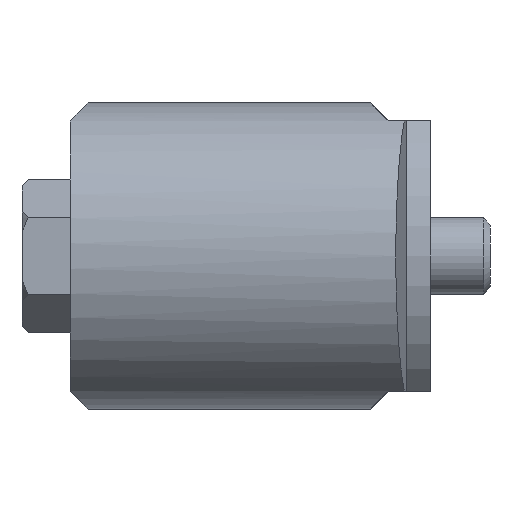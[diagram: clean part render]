
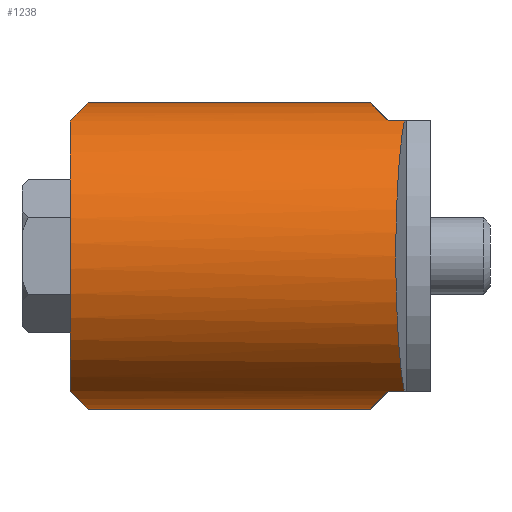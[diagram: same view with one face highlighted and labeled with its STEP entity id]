
A CAD part, left-side view. The second image highlights one B-rep face of the part: STEP entity #1238.
In plain terms, the highlighted cylindrical face has radius 12.75 mm (diameter 25.5 mm), a partial arc.
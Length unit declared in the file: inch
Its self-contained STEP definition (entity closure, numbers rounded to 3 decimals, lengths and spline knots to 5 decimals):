
#40=ELLIPSE('',#1332,0.70989,0.50197);
#41=ELLIPSE('',#1335,0.70989,0.50197);
#42=ELLIPSE('',#1338,0.70989,0.50197);
#43=ELLIPSE('',#1340,0.70989,0.50197);
#44=ELLIPSE('',#1344,0.50473,0.50197);
#112=FACE_OUTER_BOUND('',#183,.T.);
#183=EDGE_LOOP('',(#840,#841,#842,#843,#844,#845,#846,#847,#848,#849));
#261=LINE('',#1909,#332);
#274=LINE('',#1939,#345);
#283=LINE('',#1964,#354);
#284=LINE('',#1966,#355);
#332=VECTOR('',#1517,0.3937);
#345=VECTOR('',#1536,0.3937);
#354=VECTOR('',#1563,0.3937);
#355=VECTOR('',#1566,0.3937);
#407=CIRCLE('',#1346,0.50197);
#492=VERTEX_POINT('',#1899);
#493=VERTEX_POINT('',#1900);
#496=VERTEX_POINT('',#1908);
#501=VERTEX_POINT('',#1920);
#502=VERTEX_POINT('',#1921);
#509=VERTEX_POINT('',#1936);
#510=VERTEX_POINT('',#1938);
#512=VERTEX_POINT('',#1944);
#514=VERTEX_POINT('',#1950);
#515=VERTEX_POINT('',#1951);
#620=EDGE_CURVE('',#492,#493,#40,.T.);
#624=EDGE_CURVE('',#493,#496,#261,.T.);
#630=EDGE_CURVE('',#501,#502,#41,.T.);
#638=EDGE_CURVE('',#510,#509,#274,.T.);
#641=EDGE_CURVE('',#509,#512,#42,.T.);
#644=EDGE_CURVE('',#514,#515,#43,.T.);
#650=EDGE_CURVE('',#496,#510,#44,.T.);
#651=EDGE_CURVE('',#512,#514,#283,.T.);
#652=EDGE_CURVE('',#501,#515,#407,.T.);
#653=EDGE_CURVE('',#492,#502,#284,.T.);
#840=ORIENTED_EDGE('',*,*,#620,.T.);
#841=ORIENTED_EDGE('',*,*,#624,.T.);
#842=ORIENTED_EDGE('',*,*,#650,.T.);
#843=ORIENTED_EDGE('',*,*,#638,.T.);
#844=ORIENTED_EDGE('',*,*,#641,.T.);
#845=ORIENTED_EDGE('',*,*,#651,.T.);
#846=ORIENTED_EDGE('',*,*,#644,.T.);
#847=ORIENTED_EDGE('',*,*,#652,.F.);
#848=ORIENTED_EDGE('',*,*,#630,.T.);
#849=ORIENTED_EDGE('',*,*,#653,.F.);
#1134=CYLINDRICAL_SURFACE('',#1345,0.50197);
#1238=ADVANCED_FACE('',(#112),#1134,.T.);
#1332=AXIS2_PLACEMENT_3D('',#1901,#1510,#1511);
#1335=AXIS2_PLACEMENT_3D('',#1922,#1525,#1526);
#1338=AXIS2_PLACEMENT_3D('',#1945,#1541,#1542);
#1340=AXIS2_PLACEMENT_3D('',#1952,#1547,#1548);
#1344=AXIS2_PLACEMENT_3D('',#1962,#1559,#1560);
#1345=AXIS2_PLACEMENT_3D('',#1963,#1561,#1562);
#1346=AXIS2_PLACEMENT_3D('',#1965,#1564,#1565);
#1510=DIRECTION('center_axis',(0.,0.707,0.707));
#1511=DIRECTION('ref_axis',(0.,-0.707,0.707));
#1517=DIRECTION('',(0.,-1.,0.));
#1525=DIRECTION('center_axis',(0.,-0.707,0.707));
#1526=DIRECTION('ref_axis',(0.,0.707,0.707));
#1536=DIRECTION('',(0.,1.,0.));
#1541=DIRECTION('center_axis',(0.,0.707,-0.707));
#1542=DIRECTION('ref_axis',(0.,0.707,0.707));
#1547=DIRECTION('center_axis',(0.,-0.707,-0.707));
#1548=DIRECTION('ref_axis',(0.,-0.707,0.707));
#1559=DIRECTION('center_axis',(0.105,0.995,0.));
#1560=DIRECTION('ref_axis',(-0.995,0.105,0.));
#1561=DIRECTION('center_axis',(0.,-1.,0.));
#1562=DIRECTION('ref_axis',(0.,0.,1.));
#1563=DIRECTION('',(0.,1.,0.));
#1564=DIRECTION('center_axis',(0.,1.,0.));
#1565=DIRECTION('ref_axis',(0.,0.,1.));
#1566=DIRECTION('',(0.,1.,0.));
#1899=CARTESIAN_POINT('',(-0.65997,-0.4875,-0.50197));
#1900=CARTESIAN_POINT('',(-0.89619,-0.54655,-0.44291));
#1901=CARTESIAN_POINT('Origin',(-0.65997,-0.98947,0.));
#1908=CARTESIAN_POINT('',(-0.89619,-0.60002,-0.44291));
#1909=CARTESIAN_POINT('',(-0.89619,0.49675,-0.44291));
#1920=CARTESIAN_POINT('',(-0.89619,0.49675,-0.44291));
#1921=CARTESIAN_POINT('',(-0.65997,0.4377,-0.50197));
#1922=CARTESIAN_POINT('Origin',(-0.65997,0.93967,0.));
#1936=CARTESIAN_POINT('',(-0.89619,-0.54655,0.44291));
#1938=CARTESIAN_POINT('',(-0.89619,-0.60002,0.44291));
#1939=CARTESIAN_POINT('',(-0.89619,0.49675,0.44291));
#1944=CARTESIAN_POINT('',(-0.65997,-0.4875,0.50197));
#1945=CARTESIAN_POINT('Origin',(-0.65997,-0.98947,0.));
#1950=CARTESIAN_POINT('',(-0.65997,0.4377,0.50197));
#1951=CARTESIAN_POINT('',(-0.89619,0.49675,0.44291));
#1952=CARTESIAN_POINT('Origin',(-0.65997,0.93967,0.));
#1962=CARTESIAN_POINT('Origin',(-0.65997,-0.62485,0.));
#1963=CARTESIAN_POINT('Origin',(-0.65997,0.49675,0.));
#1964=CARTESIAN_POINT('',(-0.65997,0.49675,0.50197));
#1965=CARTESIAN_POINT('Origin',(-0.65997,0.49675,0.));
#1966=CARTESIAN_POINT('',(-0.65997,0.49675,-0.50197));
